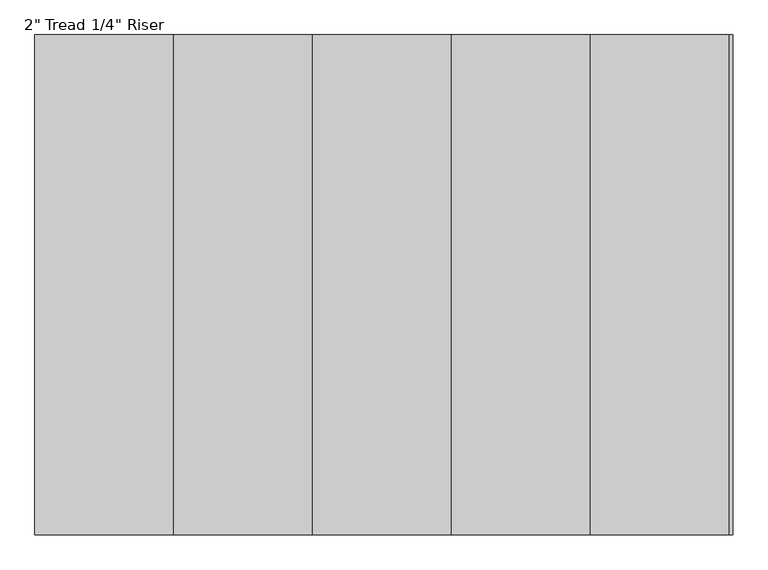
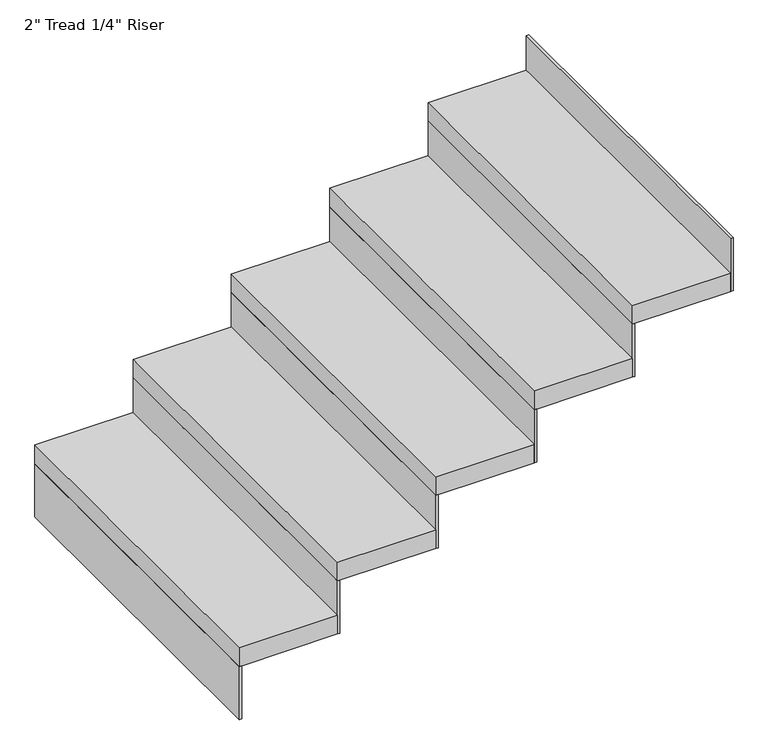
"""IFC4 building model written with IfcOpenShell, lengths in millimetres: stair flight geometry."""

from ifc_helpers import new_model, si_unit, frame, origin, place, context, project, spatial, polyline, outline, extrude, source, transform, mapped, element, save


def stair_flight_4459294c(model_context):
    return source(origin(), model_context, "Body", "SweptSolid", [
        extrude(outline(polyline([(17539.7535021, 28700.5361774), (17533.4035021, 28700.5361774), (17533.4035021, 29614.9361774), (17539.7535021, 29614.9361774), (17539.7535021, 28700.5361774)])), frame((0.0, 0.0, 2126.3428571), z_axis=(0.0, 0.0, 1.0), x_axis=(1.0, 0.0, 0.0)), (0.0, 0.0, 1.0), 145.1428571),
        extrude(outline(polyline([(17787.4035021, 29614.9361774), (17787.4035021, 28700.5361774), (17533.4035021, 28700.5361774), (17533.4035021, 29614.9361774), (17787.4035021, 29614.9361774)])), frame((0.0, 0.0, 2271.4857143), z_axis=(0.0, 0.0, 1.0), x_axis=(1.0, 0.0, 0.0)), (0.0, 0.0, 1.0), 50.8),
        extrude(outline(polyline([(17793.7535021, 28700.5361774), (17787.4035021, 28700.5361774), (17787.4035021, 29614.9361774), (17793.7535021, 29614.9361774), (17793.7535021, 28700.5361774)])), frame((0.0, 0.0, 2271.4857143), z_axis=(0.0, 0.0, 1.0), x_axis=(1.0, 0.0, 0.0)), (0.0, 0.0, 1.0), 145.1428571),
        extrude(outline(polyline([(18041.4035021, 29614.9361774), (18041.4035021, 28700.5361774), (17787.4035021, 28700.5361774), (17787.4035021, 29614.9361774), (18041.4035021, 29614.9361774)])), frame((0.0, 0.0, 2416.6285714), z_axis=(0.0, 0.0, 1.0), x_axis=(1.0, 0.0, 0.0)), (0.0, 0.0, 1.0), 50.8),
        extrude(outline(polyline([(18047.7535021, 28700.5361774), (18041.4035021, 28700.5361774), (18041.4035021, 29614.9361774), (18047.7535021, 29614.9361774), (18047.7535021, 28700.5361774)])), frame((0.0, 0.0, 2416.6285714), z_axis=(0.0, 0.0, 1.0), x_axis=(1.0, 0.0, 0.0)), (0.0, 0.0, 1.0), 145.1428571),
        extrude(outline(polyline([(18295.4035021, 29614.9361774), (18295.4035021, 28700.5361774), (18041.4035021, 28700.5361774), (18041.4035021, 29614.9361774), (18295.4035021, 29614.9361774)])), frame((0.0, 0.0, 2561.7714286), z_axis=(0.0, 0.0, 1.0), x_axis=(1.0, 0.0, 0.0)), (0.0, 0.0, 1.0), 50.8),
        extrude(outline(polyline([(18301.7535021, 28700.5361774), (18295.4035021, 28700.5361774), (18295.4035021, 29614.9361774), (18301.7535021, 29614.9361774), (18301.7535021, 28700.5361774)])), frame((0.0, 0.0, 2561.7714286), z_axis=(0.0, 0.0, 1.0), x_axis=(1.0, 0.0, 0.0)), (0.0, 0.0, 1.0), 145.1428571),
        extrude(outline(polyline([(18549.4035021, 29614.9361774), (18549.4035021, 28700.5361774), (18295.4035021, 28700.5361774), (18295.4035021, 29614.9361774), (18549.4035021, 29614.9361774)])), frame((0.0, 0.0, 2706.9142857), z_axis=(0.0, 0.0, 1.0), x_axis=(1.0, 0.0, 0.0)), (0.0, 0.0, 1.0), 50.8),
        extrude(outline(polyline([(18555.7535021, 28700.5361774), (18549.4035021, 28700.5361774), (18549.4035021, 29614.9361774), (18555.7535021, 29614.9361774), (18555.7535021, 28700.5361774)])), frame((0.0, 0.0, 2706.9142857), z_axis=(0.0, 0.0, 1.0), x_axis=(1.0, 0.0, 0.0)), (0.0, 0.0, 1.0), 145.1428571),
        extrude(outline(polyline([(18809.7535021, 28700.5361774), (18803.4035021, 28700.5361774), (18803.4035021, 29614.9361774), (18809.7535021, 29614.9361774), (18809.7535021, 28700.5361774)])), frame((0.0, 0.0, 2852.0571429), z_axis=(0.0, 0.0, 1.0), x_axis=(1.0, 0.0, 0.0)), (0.0, 0.0, 1.0), 145.1428571),
        extrude(outline(polyline([(18803.4035021, 29614.9361774), (18803.4035021, 28700.5361774), (18549.4035021, 28700.5361774), (18549.4035021, 29614.9361774), (18803.4035021, 29614.9361774)])), frame((0.0, 0.0, 2852.0571429), z_axis=(0.0, 0.0, 1.0), x_axis=(1.0, 0.0, 0.0)), (0.0, 0.0, 1.0), 50.8),
    ])


if __name__ == "__main__":
    model = new_model("IFC4")
    model_context = context("Model", 3, world=origin())
    ifc_project = project(units=[si_unit("LENGTHUNIT", "METRE", prefix="MILLI")], contexts=[model_context])
    site = spatial("IfcSite", under=ifc_project)
    building = spatial("IfcBuilding", under=site)
    placement = place(None, origin())
    stair_flight_shape = stair_flight_4459294c(model_context)
    element("IfcStairFlight", 1, ObjectType="2\" Tread 1/4\" Riser", at=placement, inside=building, context=model_context, shape_type="MappedRepresentation", body=[
        mapped(stair_flight_shape, transform((0.0, 0.0, 0.0), x_axis=(1.0, 0.0, 0.0), y_axis=(0.0, 1.0, 0.0), z_axis=(0.0, 0.0, 1.0))),
    ])
    save(model, "model.ifc")
